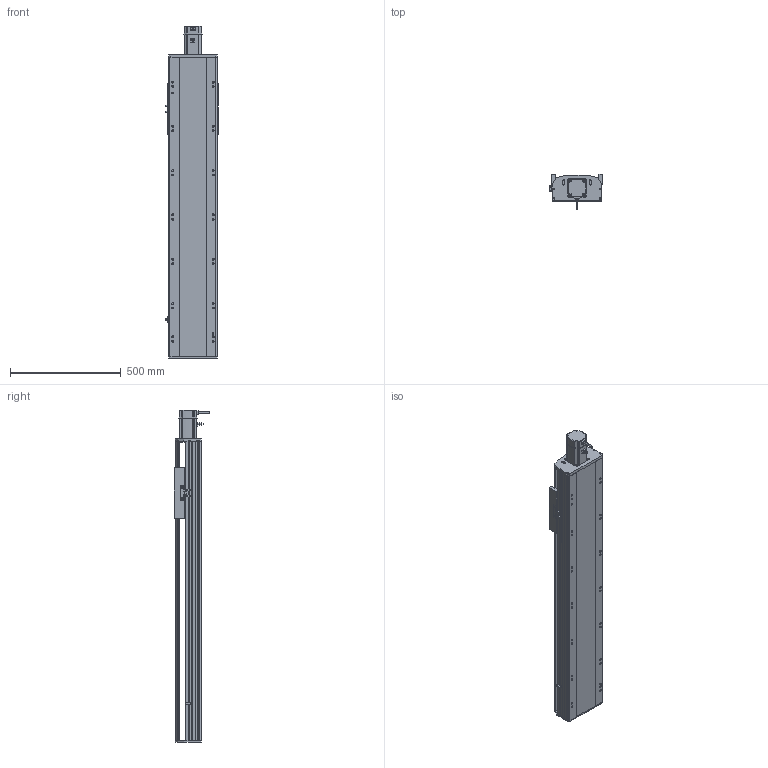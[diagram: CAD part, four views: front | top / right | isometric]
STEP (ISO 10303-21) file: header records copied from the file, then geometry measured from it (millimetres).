
FILE_DESCRIPTION (( 'STEP AP214' ), '1' );
FILE_NAME ('RTH22-XX-950-E-M75-C4.STEP', '2025-10-24T10:46:49', ( 'Microsoft' ), ( 'Microsoft' ), 'SwSTEP 2.0', 'SolidWorks 2018', '' );
FILE_SCHEMA (( 'AUTOMOTIVE_DESIGN' ));
Length unit declared in the file: millimetre
Products named in the file (9): N_RTH22-E-004-SFS25賑釱^RTH22-XX-XX-E-M75-C4; N_RTH22-GY-013外置感应片^RTH22-XX-XX-E-M75-C4; N_RTH22-E-007奻裔^RTH22-XX-XX-E-M75-C4; N_RTH22-GY-001耜裔^RTH22-XX-XX-E-M75-C4; N_RTH22-E-008萇儂啣^RTH22-XX-XX-E-M75-C4; RTH22-XX-950-E-M75-C4; N_OMRON EE-SX672 传感器^RTH22-XX-XX-E-M75-C4; N_RTH22-E-011菁釱^RTH22-XX-XX-E-M75-C4; N_750W萇儂^RTH22-XX-XX-E-M75-C4
Assembly tree (10 placements, depth 2):
  RTH22-XX-950-E-M75-C4
    N_RTH22-E-011菁釱^RTH22-XX-XX-E-M75-C4
    N_RTH22-GY-001耜裔^RTH22-XX-XX-E-M75-C4
    N_RTH22-E-008萇儂啣^RTH22-XX-XX-E-M75-C4
    N_RTH22-E-007奻裔^RTH22-XX-XX-E-M75-C4
    N_RTH22-GY-013外置感应片^RTH22-XX-XX-E-M75-C4
    N_RTH22-E-004-SFS25賑釱^RTH22-XX-XX-E-M75-C4
    N_750W萇儂^RTH22-XX-XX-E-M75-C4
    N_OMRON EE-SX672 传感器^RTH22-XX-XX-E-M75-C4  x3
Bounding box: 238.5 x 160.7 x 1499 mm (x, y, z)
Volume: 18843912.1 mm3; surface area: 1951313 mm2
Topology: 10 solids, 10 shells, 1541 faces, 4224 edges, 2729 vertices
Faces by surface type: plane 756, cylinder 448, bspline 279, cone 58
Entity records: 38575 total; most frequent: CARTESIAN_POINT 12089, ORIENTED_EDGE 5424, DIRECTION 5098, EDGE_CURVE 2712, VERTEX_POINT 1765, AXIS2_PLACEMENT_3D 1718, VECTOR 1662, LINE 1662
